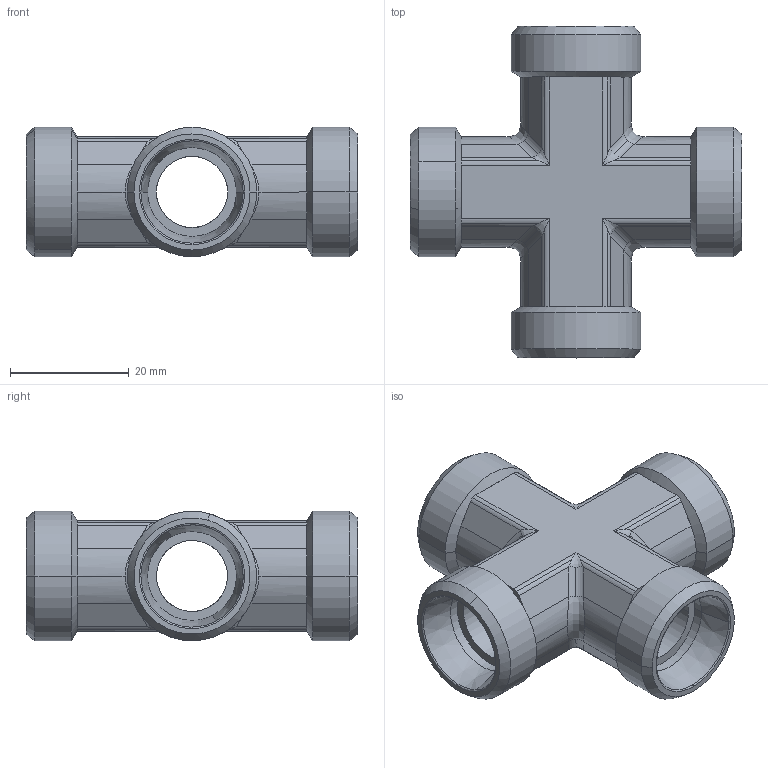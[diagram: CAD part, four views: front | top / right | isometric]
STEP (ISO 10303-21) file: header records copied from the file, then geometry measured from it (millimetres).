
FILE_DESCRIPTION((''),'2;1');
FILE_NAME('104008.stp','2007-10-31T13:16:06',(''),(''),'AutoCAD STEP 2000i','AutoCAD 2000i',', , ');
FILE_SCHEMA(('CONFIG_CONTROL_DESIGN'));
Length unit declared in the file: millimetre
Products named in the file (2): 104008.0; 3093#0
Assembly tree (1 placements, depth 2):
  104008.0
    3093#0
Bounding box: 56 x 56 x 21.85 mm (x, y, z)
Volume: 16399.1 mm3; surface area: 10520.4 mm2
Topology: 1 solids, 1 shells, 174 faces, 428 edges, 250 vertices
Faces by surface type: cylinder 88, plane 42, cone 24, bspline 20
Entity records: 6669 total; most frequent: CARTESIAN_POINT 2374, DIRECTION 976, ORIENTED_EDGE 840, EDGE_CURVE 420, AXIS2_PLACEMENT_3D 400, VERTEX_POINT 250, CIRCLE 186, EDGE_LOOP 182
